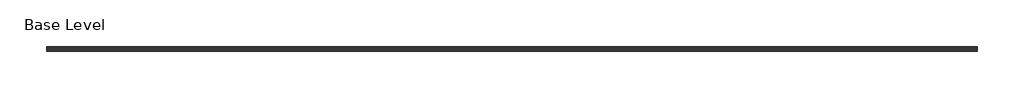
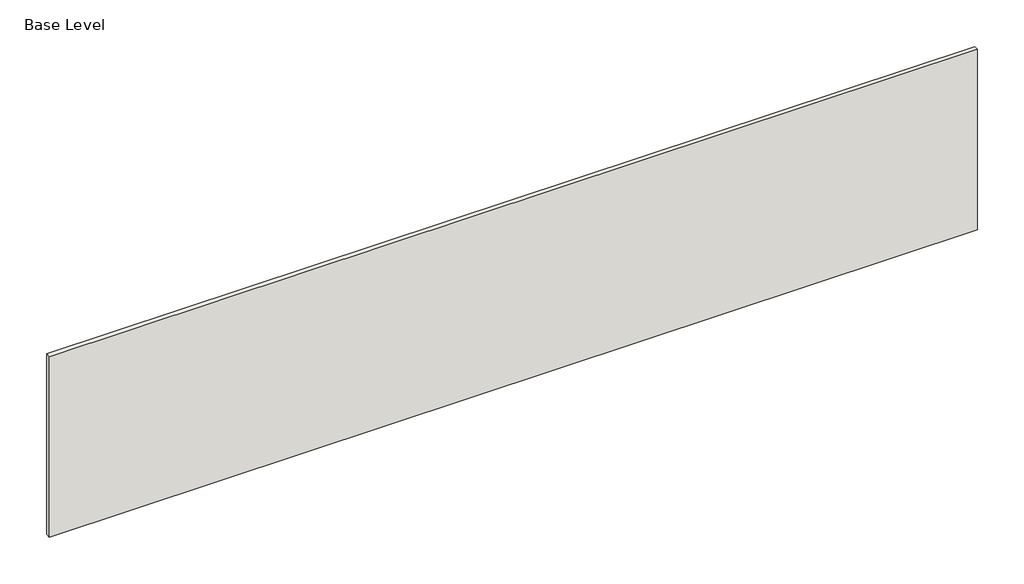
# One storey: 1 wall.
"""IFC4 building model written with IfcOpenShell, lengths in millimetres."""

import ifcopenshell
import ifcopenshell.guid

model = None  # the IFC model being written
_history = None  # IfcOwnerHistory: only IFC2X3 demands one
_inside = {}  # id of a spatial element -> (the spatial element, [elements in it])
_under = {}  # id of a project, library or spatial element -> (it, [spatial elements below it])
_declared = {}  # id of a project -> (the project, [libraries it declares])
_typed = {}  # id of a type object -> (the type object, [elements of that type])
_made_of = {}  # id of a material, layer set ... -> (it, [elements and type objects made of it])


def new_model(schema):
    """Start an empty IFC model of exactly this schema.

    Asked for "IFC4X3", IfcOpenShell would pick the latest addendum, in which some entities
    have other attributes; the version numbers below select the first issue.
    IFC2X3 requires an IfcOwnerHistory on every rooted entity: one is made here for all.
    """
    global model, _history
    if schema == "IFC4X3":
        model = ifcopenshell.file(schema_version=(4, 3, 0, 0))
    else:
        model = ifcopenshell.file(schema=schema)
    _inside.clear()
    _under.clear()
    _declared.clear()
    _typed.clear()
    _made_of.clear()
    _history = None
    if model.schema == "IFC2X3":
        org = make("IfcOrganization", Name="unknown")
        user = make(
            "IfcPersonAndOrganization",
            ThePerson=make("IfcPerson", FamilyName="unknown"),
            TheOrganization=org,
        )
        app = make(
            "IfcApplication",
            ApplicationDeveloper=org,
            Version="unknown",
            ApplicationFullName="unknown",
            ApplicationIdentifier="unknown",
        )
        _history = make(
            "IfcOwnerHistory",
            OwningUser=user,
            OwningApplication=app,
            ChangeAction="ADDED",
            CreationDate=0,
        )
    return model


def make(cls, **values):
    """One entity of the class cls with the attributes given. An attribute that is None is left unset."""
    return model.create_entity(
        cls, **{name: value for name, value in values.items() if value is not None}
    )


def rooted(cls, **values):
    """An entity with a GlobalId (a new one), such as an element, a storey or a relation."""
    return make(cls, GlobalId=ifcopenshell.guid.new(), OwnerHistory=_history, **values)


def si_unit(unit_type, name, prefix=None):
    """IfcSIUnit, for example si_unit("LENGTHUNIT", "METRE", prefix="MILLI")."""
    return make("IfcSIUnit", UnitType=unit_type, Prefix=prefix, Name=name)


def assignment(units):
    """IfcUnitAssignment: the units of a project."""
    return None if units is None else make("IfcUnitAssignment", Units=units)


def point(xyz):
    """IfcCartesianPoint."""
    return None if xyz is None else make("IfcCartesianPoint", Coordinates=xyz)


def direction(xyz):
    """IfcDirection."""
    return None if xyz is None else make("IfcDirection", DirectionRatios=xyz)


def frame(location, z_axis=None, x_axis=None):
    """IfcAxis2Placement3D, a coordinate frame: its origin and axes. An axis left out is left unset."""
    return make(
        "IfcAxis2Placement3D",
        Location=point(location),
        Axis=direction(z_axis),
        RefDirection=direction(x_axis),
    )


def origin():
    """The frame at (0, 0, 0) with its axes left unset."""
    return frame((0.0, 0.0, 0.0))


def origin_with_axes():
    """The frame at (0, 0, 0) with the z axis (0, 0, 1) and the x axis (1, 0, 0) written out."""
    return frame((0.0, 0.0, 0.0), z_axis=(0.0, 0.0, 1.0), x_axis=(1.0, 0.0, 0.0))


def place(relative_to, where):
    """IfcLocalPlacement: puts the frame where relative to a parent placement (None: the world)."""
    return make(
        "IfcLocalPlacement", PlacementRelTo=relative_to, RelativePlacement=where
    )


def context(
    kind, dimensions, precision=None, world=None, true_north=None, identifier=None
):
    """IfcGeometricRepresentationContext, for example the 3D "Model" context."""
    return make(
        "IfcGeometricRepresentationContext",
        ContextIdentifier=identifier,
        ContextType=kind,
        CoordinateSpaceDimension=dimensions,
        Precision=precision,
        WorldCoordinateSystem=world,
        TrueNorth=true_north,
    )


def project(units=None, contexts=None):
    """IfcProject with its units and contexts."""
    return rooted(
        "IfcProject",
        Name="project",
        RepresentationContexts=contexts,
        UnitsInContext=assignment(units),
    )


def spatial(cls, under=None, at=None, **own):
    """A site, building, storey or space (cls), placed at a placement, below another one or the project."""
    s = rooted(cls, ObjectPlacement=at, **own)
    if under is not None:
        _under.setdefault(under.id(), (under, []))[1].append(s)
    return s


def polyline(points):
    """IfcPolyline through the points."""
    return make("IfcPolyline", Points=[point(p) for p in points])


def outline(outer, holes=None, kind="AREA"):
    """IfcArbitraryClosedProfileDef: a profile drawn as a closed curve; with holes, ...WithVoids."""
    if holes is None:
        return make("IfcArbitraryClosedProfileDef", ProfileType=kind, OuterCurve=outer)
    return make(
        "IfcArbitraryProfileDefWithVoids",
        ProfileType=kind,
        OuterCurve=outer,
        InnerCurves=holes,
    )


def extrude(swept, where, along, depth):
    """IfcExtrudedAreaSolid: the profile swept, set in the frame where, extruded along a direction by depth."""
    return make(
        "IfcExtrudedAreaSolid",
        SweptArea=swept,
        Position=where,
        ExtrudedDirection=direction(along),
        Depth=depth,
    )


def shape(context_of_items, identifier, shape_type, items):
    """IfcShapeRepresentation: the items that make up one representation, for example the "Body"."""
    return make(
        "IfcShapeRepresentation",
        ContextOfItems=context_of_items,
        RepresentationIdentifier=identifier,
        RepresentationType=shape_type,
        Items=items,
    )


def made_of(thing, what):
    """Note that an element or type object is made of a material, layer set ...; save() writes the relation."""
    if what is not None:
        _made_of.setdefault(what.id(), (what, []))[1].append(thing)
    return thing


def element(
    cls,
    number,
    at=None,
    inside=None,
    cuts=None,
    type_object=None,
    material=None,
    context=None,
    identifier="Body",
    shape_type=None,
    held_by="IfcProductDefinitionShape",
    body=None,
    shapes=None,
    **own,
):
    """One element of the class cls, such as IfcWall. Its Tag is "e" and its number.

    at: its placement. inside: the storey or other place that contains it. cuts: it is an
    opening in that element (IfcRelVoidsElement). A single representation is given by context,
    identifier, shape_type and body (its items); several are given by shapes. held_by: the class
    of the entity that holds the representations. save() writes the other relations.
    """
    e = rooted(cls, Tag="e%d" % number, ObjectPlacement=at, **own)
    if body is not None:
        shapes = [shape(context, identifier, shape_type, body)]
    if shapes is not None:
        e.Representation = make(held_by, Representations=shapes)
    if inside is not None:
        _inside.setdefault(inside.id(), (inside, []))[1].append(e)
    if cuts is not None:
        rooted(
            "IfcRelVoidsElement", RelatingBuildingElement=cuts, RelatedOpeningElement=e
        )
    if type_object is not None:
        _typed.setdefault(type_object.id(), (type_object, []))[1].append(e)
    return made_of(e, material)


def aggregate(whole, parts):
    """IfcRelAggregates: a whole, such as a stair, and the parts it consists of."""
    return rooted("IfcRelAggregates", RelatingObject=whole, RelatedObjects=parts)


def save(model, path):
    """Write the relations noted so far, then the file.

    IfcRelAggregates (storeys below a building ...), IfcRelContainedInSpatialStructure (elements
    in a storey), IfcRelDefinesByType, IfcRelAssociatesMaterial and IfcRelDeclares: one each for
    every whole, place, type object, material and project.
    """
    for whole, parts in _under.values():
        aggregate(whole, parts)
    for where, things in _inside.values():
        rooted(
            "IfcRelContainedInSpatialStructure",
            RelatedElements=things,
            RelatingStructure=where,
        )
    for kind, things in _typed.values():
        rooted("IfcRelDefinesByType", RelatedObjects=things, RelatingType=kind)
    for what, things in _made_of.values():
        rooted("IfcRelAssociatesMaterial", RelatedObjects=things, RelatingMaterial=what)
    for by, libraries in _declared.values():
        rooted("IfcRelDeclares", RelatingContext=by, RelatedDefinitions=libraries)
    model.write(path)


model = new_model("IFC4")

# Units and contexts
model_context = context("Model", 3, world=origin())
ifc_project = project(units=[si_unit("LENGTHUNIT", "METRE", prefix="MILLI")], contexts=[model_context])

# Site, building, storey
site = spatial("IfcSite", under=ifc_project)
building = spatial("IfcBuilding", under=site)
storey = spatial("IfcBuildingStorey", under=building, Name="Base Level", Elevation=0.0)

# Wall
placement = place(None, origin())
element("IfcWall", 1, ObjectType="PW01 - JUMBO DryWALL 51/30 76mm", at=placement, inside=storey, context=model_context, shape_type="SweptSolid", body=[
    extrude(outline(polyline([(76235.5186508, 4862.5989557), (61635.5186508, 4862.5989557), (61635.5186508, 4938.5989557), (76235.5186508, 4938.5989557), (76235.5186508, 4862.5989557)])), origin_with_axes(), (0.0, 0.0, 1.0), 3000.0),
])

save(model, "model.ifc")
